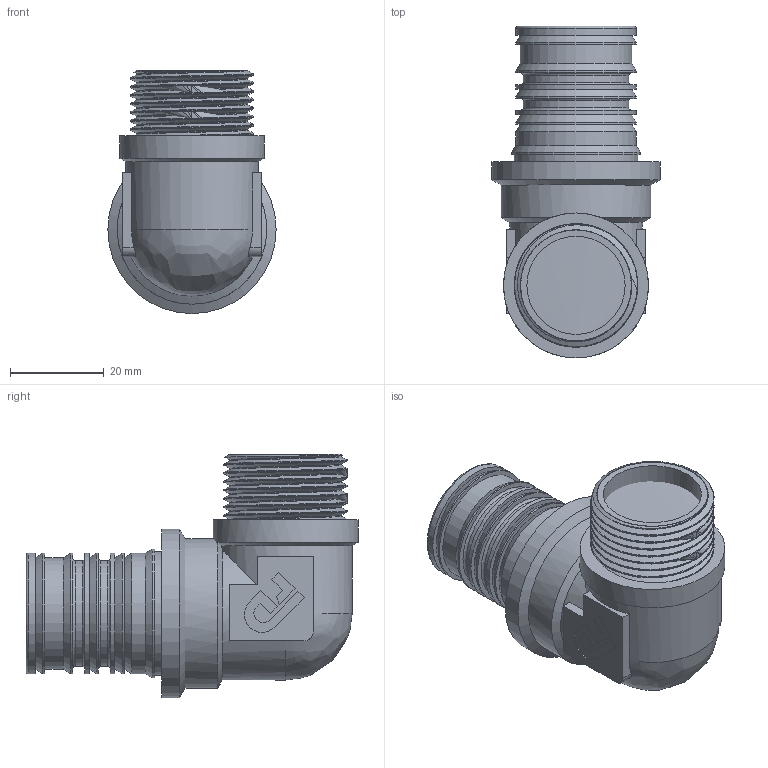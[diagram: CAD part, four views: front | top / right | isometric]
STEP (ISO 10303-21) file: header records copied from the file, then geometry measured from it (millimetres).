
FILE_DESCRIPTION(/* description */ (''),/* implementation_level */ '2;1');
FILE_NAME(/* name */ 'C:\Users\Doom\Desktop\Фадотех\Пресс\HDU27-1 31.03.2020\HDU27-1 31.03.2020.stp',/* time_stamp */ '2022-08-13T21:38:15+03:00',/* author */ ('Doom'),/* organization */ (''),/* preprocessor_version */ 'ST-DEVELOPER v18',/* originating_system */ 'Autodesk Inventor 2020',/* authorisation */ '');
FILE_SCHEMA (('AUTOMOTIVE_DESIGN { 1 0 10303 214 3 1 1 }'));
Length unit declared in the file: millimetre
Products named in the file (1): HDU27-1 31.03.2020
Bounding box: 36 x 71 x 52 mm (x, y, z)
Volume: 27263.3 mm3; surface area: 19029.9 mm2
Topology: 2 solids, 2 shells, 130 faces, 361 edges, 251 vertices
Faces by surface type: plane 63, cylinder 35, bspline 16, cone 11, torus 5
Full cylindrical faces by diameter (mm): 19.5 x1, 21 x1, 22.6 x2, 23.71 x2, 23.8 x1, 25.8 x8, 26.4 x9, 26.5 x1, 27.5 x1, 31 x1, 32 x1, 36 x1
Entity records: 8834 total; most frequent: CARTESIAN_POINT 5496, ORIENTED_EDGE 722, DIRECTION 636, EDGE_CURVE 361, VERTEX_POINT 251, AXIS2_PLACEMENT_3D 235, LINE 166, VECTOR 166
